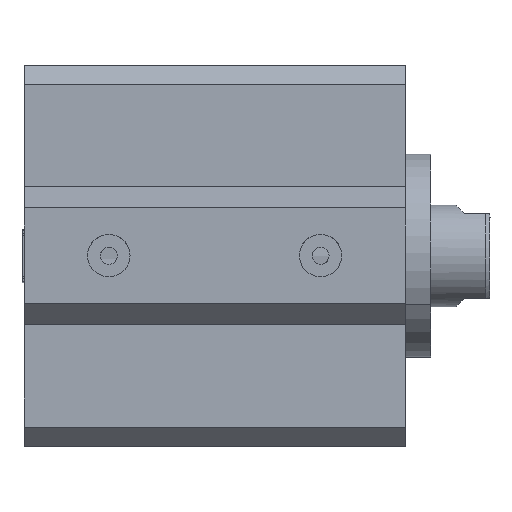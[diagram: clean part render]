
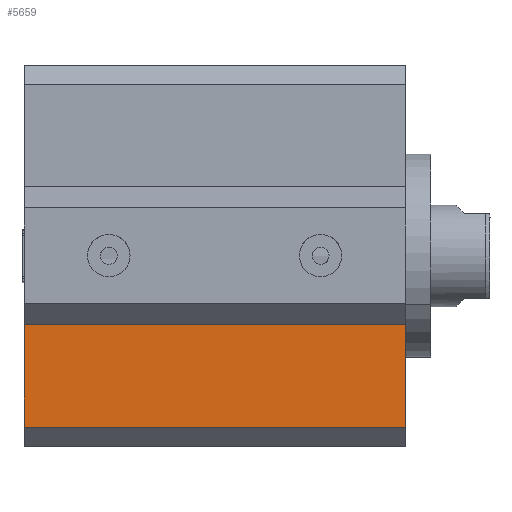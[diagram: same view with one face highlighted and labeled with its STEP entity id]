
A CAD part, top view. The second image highlights one B-rep face of the part: STEP entity #5659.
In plain terms, the highlighted planar face has unit normal (0, 0, 1).
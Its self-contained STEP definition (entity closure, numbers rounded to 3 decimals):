
#3320=CARTESIAN_POINT('Axis2P3D Location',(0.,8.125,22.5)) ;
#4347=CARTESIAN_POINT('Vertex',(0.,-20.25,22.5)) ;
#4350=CARTESIAN_POINT('Line Origine',(0.,-14.188,22.5)) ;
#4354=CARTESIAN_POINT('Vertex',(0.,-8.125,22.5)) ;
#5622=CARTESIAN_POINT('Line Origine',(22.5,-20.25,22.5)) ;
#5626=CARTESIAN_POINT('Vertex',(45.,-20.25,22.5)) ;
#5641=CARTESIAN_POINT('Line Origine',(22.5,-8.125,22.5)) ;
#5645=CARTESIAN_POINT('Vertex',(45.,-8.125,22.5)) ;
#5648=CARTESIAN_POINT('Line Origine',(45.,-14.188,22.5)) ;
#3321=DIRECTION('Axis2P3D Direction',(0.,0.,-1.)) ;
#3322=DIRECTION('Axis2P3D XDirection',(0.,1.,0.)) ;
#4351=DIRECTION('Vector Direction',(0.,1.,0.)) ;
#5623=DIRECTION('Vector Direction',(1.,0.,0.)) ;
#5642=DIRECTION('Vector Direction',(1.,0.,0.)) ;
#5649=DIRECTION('Vector Direction',(0.,1.,0.)) ;
#3323=AXIS2_PLACEMENT_3D('Plane Axis2P3D',#3320,#3321,#3322) ;
#5654=ORIENTED_EDGE('',*,*,#5647,.F.) ;
#5655=ORIENTED_EDGE('',*,*,#4356,.T.) ;
#5656=ORIENTED_EDGE('',*,*,#5628,.T.) ;
#5657=ORIENTED_EDGE('',*,*,#5652,.F.) ;
#4352=VECTOR('Line Direction',#4351,1.) ;
#5624=VECTOR('Line Direction',#5623,1.) ;
#5643=VECTOR('Line Direction',#5642,1.) ;
#5650=VECTOR('Line Direction',#5649,1.) ;
#5659=ADVANCED_FACE('PartBody',(#5658),#3324,.F.) ;
#4356=EDGE_CURVE('',#4355,#4348,#4353,.F.) ;
#5628=EDGE_CURVE('',#4348,#5627,#5625,.T.) ;
#5647=EDGE_CURVE('',#4355,#5646,#5644,.T.) ;
#5652=EDGE_CURVE('',#5646,#5627,#5651,.F.) ;
#5653=EDGE_LOOP('',(#5654,#5655,#5656,#5657)) ;
#5658=FACE_OUTER_BOUND('',#5653,.T.) ;
#4353=LINE('Line',#4350,#4352) ;
#5625=LINE('Line',#5622,#5624) ;
#5644=LINE('Line',#5641,#5643) ;
#5651=LINE('Line',#5648,#5650) ;
#3324=PLANE('',#3323) ;
#4348=VERTEX_POINT('',#4347) ;
#4355=VERTEX_POINT('',#4354) ;
#5627=VERTEX_POINT('',#5626) ;
#5646=VERTEX_POINT('',#5645) ;
